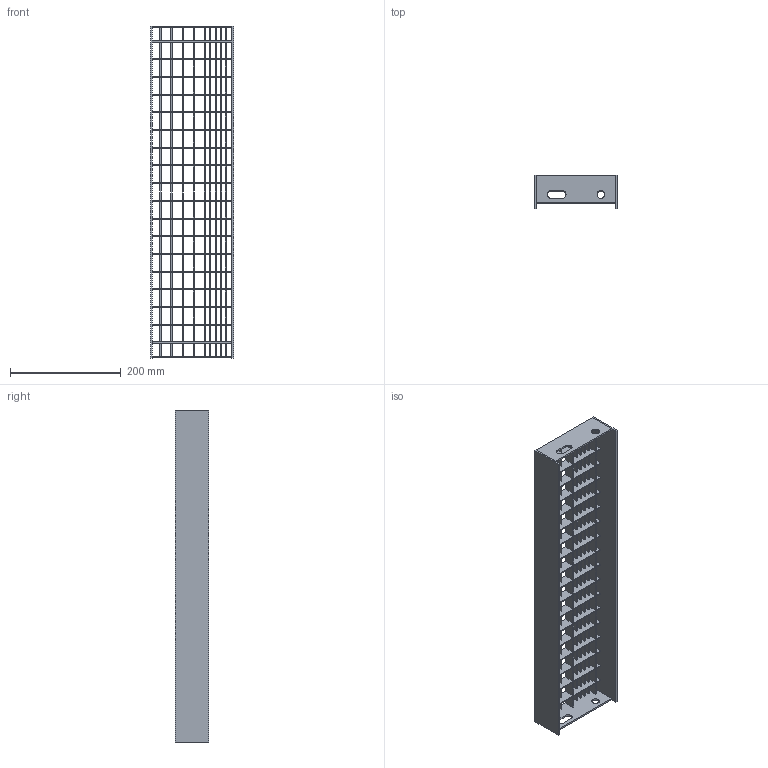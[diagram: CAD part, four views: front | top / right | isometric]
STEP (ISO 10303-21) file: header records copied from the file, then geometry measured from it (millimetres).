
FILE_DESCRIPTION (( 'STEP AP203' ), '1' );
FILE_NAME ('23007156S_ Gitterristetrin_150x600mm.STEP', '2014-12-15T12:43:10', ( '' ), ( '' ), 'SwSTEP 2.0', 'SolidWorks 2013', '' );
FILE_SCHEMA (( 'CONFIG_CONTROL_DESIGN' ));
Length unit declared in the file: millimetre
Products named in the file (9): Styreribbe_20x2x594mm; Styreribbe_m_savtak_20x2x594mm; 23007156S_ Gitterristetrin_150x600mm; Endestykke_50x3x144mm; Kantstaal_60x3x600mm; Kantstaal_m_savtak_60x3x600mm (2); Baereribbe_20x2x144; Fylderibbe_10x2x594mm; Fylderibbe_m_savtak_10x2x594mm
Assembly tree (31 placements, depth 2):
  23007156S_ Gitterristetrin_150x600mm
    Endestykke_50x3x144mm  x2
    Kantstaal_60x3x600mm
    Kantstaal_m_savtak_60x3x600mm (2)
    Baereribbe_20x2x144  x18
    Fylderibbe_10x2x594mm  x2
    Fylderibbe_m_savtak_10x2x594mm  x4
    Styreribbe_20x2x594mm  x2
    Styreribbe_m_savtak_20x2x594mm
Bounding box: 150 x 60 x 600 mm (x, y, z)
Volume: 485329.1 mm3; surface area: 455723.1 mm2
Topology: 31 solids, 31 shells, 3076 faces, 9042 edges, 6028 vertices
Faces by surface type: plane 2566, cylinder 510
Full cylindrical faces by diameter (mm): 14 x2
Entity records: 42797 total; most frequent: CARTESIAN_POINT 7399, ORIENTED_EDGE 7348, DIRECTION 6734, EDGE_CURVE 3674, VECTOR 3164, LINE 3164, VERTEX_POINT 2450, AXIS2_PLACEMENT_3D 1785
